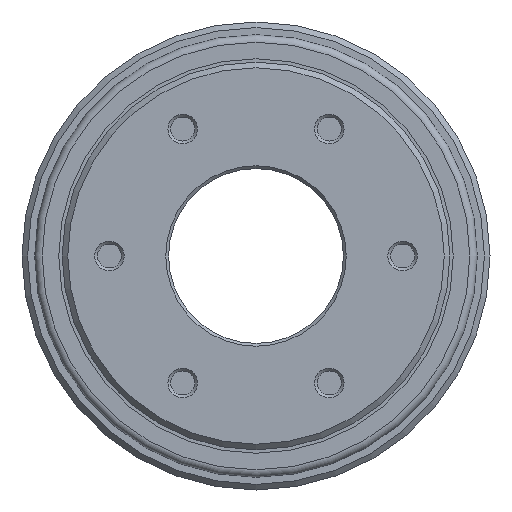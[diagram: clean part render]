
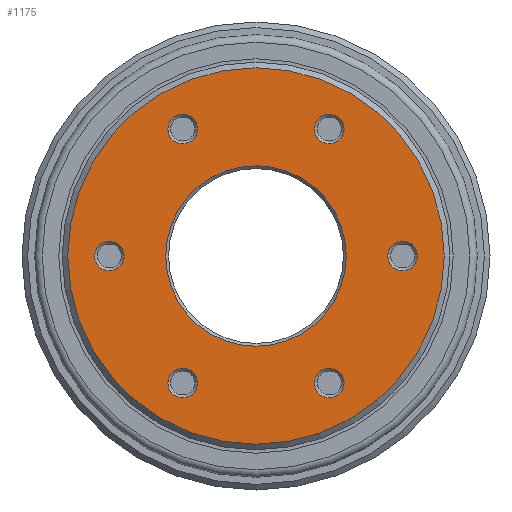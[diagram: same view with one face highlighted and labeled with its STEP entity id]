
A CAD part, left-side view. The second image highlights one B-rep face of the part: STEP entity #1175.
In plain terms, the highlighted planar face has unit normal (-1, 0, 0).
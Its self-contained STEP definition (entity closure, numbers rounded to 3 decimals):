
#1175 = ADVANCED_FACE( '', ( #2816, #2817, #2818, #2819, #2820, #2821, #2822, #2823 ), #2824, .T. );
#2816 = FACE_BOUND( '', #4915, .T. );
#2817 = FACE_BOUND( '', #4916, .T. );
#2818 = FACE_BOUND( '', #4917, .T. );
#2819 = FACE_BOUND( '', #4918, .T. );
#2820 = FACE_BOUND( '', #4919, .T. );
#2821 = FACE_BOUND( '', #4920, .T. );
#2822 = FACE_BOUND( '', #4921, .T. );
#2823 = FACE_OUTER_BOUND( '', #4922, .T. );
#2824 = PLANE( '', #4923 );
#4915 = EDGE_LOOP( '', ( #8164 ) );
#4916 = EDGE_LOOP( '', ( #8165 ) );
#4917 = EDGE_LOOP( '', ( #8166 ) );
#4918 = EDGE_LOOP( '', ( #8167 ) );
#4919 = EDGE_LOOP( '', ( #8168 ) );
#4920 = EDGE_LOOP( '', ( #8169 ) );
#4921 = EDGE_LOOP( '', ( #8170 ) );
#4922 = EDGE_LOOP( '', ( #8171 ) );
#4923 = AXIS2_PLACEMENT_3D( '', #8172, #8173, #8174 );
#8164 = ORIENTED_EDGE( '', *, *, #11545, .T. );
#8165 = ORIENTED_EDGE( '', *, *, #11546, .T. );
#8166 = ORIENTED_EDGE( '', *, *, #10747, .T. );
#8167 = ORIENTED_EDGE( '', *, *, #10571, .T. );
#8168 = ORIENTED_EDGE( '', *, *, #11547, .T. );
#8169 = ORIENTED_EDGE( '', *, *, #11548, .T. );
#8170 = ORIENTED_EDGE( '', *, *, #11549, .T. );
#8171 = ORIENTED_EDGE( '', *, *, #11239, .T. );
#8172 = CARTESIAN_POINT( '', ( -43.91, 0., -68.75 ) );
#8173 = DIRECTION( '', ( -1., 0., 0. ) );
#8174 = DIRECTION( '', ( 0., 1., 0. ) );
#10571 = EDGE_CURVE( '', #12331, #12331, #12332, .T. );
#10747 = EDGE_CURVE( '', #12636, #12636, #12637, .T. );
#11239 = EDGE_CURVE( '', #13411, #13411, #13412, .T. );
#11545 = EDGE_CURVE( '', #13858, #13858, #13859, .F. );
#11546 = EDGE_CURVE( '', #13860, #13860, #13861, .T. );
#11547 = EDGE_CURVE( '', #13862, #13862, #13863, .T. );
#11548 = EDGE_CURVE( '', #13864, #13864, #13865, .T. );
#11549 = EDGE_CURVE( '', #13866, #13866, #13867, .T. );
#12331 = VERTEX_POINT( '', #14829 );
#12332 = CIRCLE( '', #14830, 5.25 );
#12636 = VERTEX_POINT( '', #15212 );
#12637 = CIRCLE( '', #15213, 5.25 );
#13411 = VERTEX_POINT( '', #16156 );
#13412 = CIRCLE( '', #16157, 66.75 );
#13858 = VERTEX_POINT( '', #16732 );
#13859 = CIRCLE( '', #16733, 32. );
#13860 = VERTEX_POINT( '', #16734 );
#13861 = CIRCLE( '', #16735, 5.25 );
#13862 = VERTEX_POINT( '', #16736 );
#13863 = CIRCLE( '', #16737, 5.25 );
#13864 = VERTEX_POINT( '', #16738 );
#13865 = CIRCLE( '', #16739, 5.25 );
#13866 = VERTEX_POINT( '', #16740 );
#13867 = CIRCLE( '', #16741, 5.25 );
#14829 = CARTESIAN_POINT( '', ( -43.91, 52., 5.25 ) );
#14830 = AXIS2_PLACEMENT_3D( '', #17714, #17715, #17716 );
#15212 = CARTESIAN_POINT( '', ( -43.91, 26., -39.783 ) );
#15213 = AXIS2_PLACEMENT_3D( '', #17989, #17990, #17991 );
#16156 = CARTESIAN_POINT( '', ( -43.91, 0., 66.75 ) );
#16157 = AXIS2_PLACEMENT_3D( '', #18741, #18742, #18743 );
#16732 = CARTESIAN_POINT( '', ( -43.91, -32., 0. ) );
#16733 = AXIS2_PLACEMENT_3D( '', #19134, #19135, #19136 );
#16734 = CARTESIAN_POINT( '', ( -43.91, -26., -39.783 ) );
#16735 = AXIS2_PLACEMENT_3D( '', #19137, #19138, #19139 );
#16736 = CARTESIAN_POINT( '', ( -43.91, 26., 50.283 ) );
#16737 = AXIS2_PLACEMENT_3D( '', #19140, #19141, #19142 );
#16738 = CARTESIAN_POINT( '', ( -43.91, -26., 50.283 ) );
#16739 = AXIS2_PLACEMENT_3D( '', #19143, #19144, #19145 );
#16740 = CARTESIAN_POINT( '', ( -43.91, -52., 5.25 ) );
#16741 = AXIS2_PLACEMENT_3D( '', #19146, #19147, #19148 );
#17714 = CARTESIAN_POINT( '', ( -43.91, 52., 0. ) );
#17715 = DIRECTION( '', ( 1., 0., 0. ) );
#17716 = DIRECTION( '', ( 0., 0., 1. ) );
#17989 = CARTESIAN_POINT( '', ( -43.91, 26., -45.033 ) );
#17990 = DIRECTION( '', ( 1., 0., 0. ) );
#17991 = DIRECTION( '', ( 0., 0., 1. ) );
#18741 = CARTESIAN_POINT( '', ( -43.91, 0., 0. ) );
#18742 = DIRECTION( '', ( -1., 0., 0. ) );
#18743 = DIRECTION( '', ( 0., 0., 1. ) );
#19134 = CARTESIAN_POINT( '', ( -43.91, 0., 0. ) );
#19135 = DIRECTION( '', ( -1., 0., 0. ) );
#19136 = DIRECTION( '', ( 0., -1., 0. ) );
#19137 = CARTESIAN_POINT( '', ( -43.91, -26., -45.033 ) );
#19138 = DIRECTION( '', ( 1., 0., 0. ) );
#19139 = DIRECTION( '', ( 0., 0., 1. ) );
#19140 = CARTESIAN_POINT( '', ( -43.91, 26., 45.033 ) );
#19141 = DIRECTION( '', ( 1., 0., 0. ) );
#19142 = DIRECTION( '', ( 0., 0., 1. ) );
#19143 = CARTESIAN_POINT( '', ( -43.91, -26., 45.033 ) );
#19144 = DIRECTION( '', ( 1., 0., 0. ) );
#19145 = DIRECTION( '', ( 0., 0., 1. ) );
#19146 = CARTESIAN_POINT( '', ( -43.91, -52., 0. ) );
#19147 = DIRECTION( '', ( 1., 0., 0. ) );
#19148 = DIRECTION( '', ( 0., 0., 1. ) );
